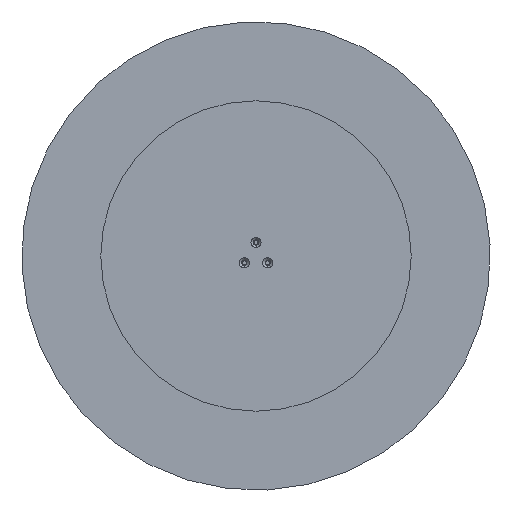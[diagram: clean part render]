
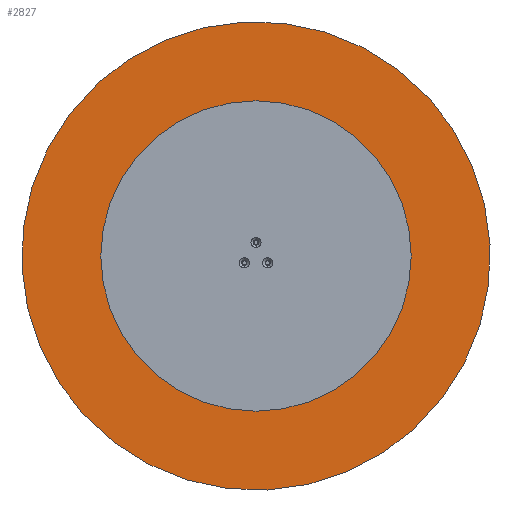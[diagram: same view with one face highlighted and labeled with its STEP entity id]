
A CAD part, front view. The second image highlights one B-rep face of the part: STEP entity #2827.
In plain terms, the highlighted planar face has unit normal (0, -1, 0).
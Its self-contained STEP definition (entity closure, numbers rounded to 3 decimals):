
#98 = EDGE_CURVE ( 'NONE', #2309, #3708, #2726, .T. ) ;
#174 = CARTESIAN_POINT ( 'NONE',  ( 0., 0., -400. ) ) ;
#199 = CARTESIAN_POINT ( 'NONE',  ( 0., 0., 400. ) ) ;
#793 = AXIS2_PLACEMENT_3D ( 'NONE', #2073, #1411, #2015 ) ;
#818 = PLANE ( 'NONE',  #793 ) ;
#919 = AXIS2_PLACEMENT_3D ( 'NONE', #3505, #1375, #3121 ) ;
#989 = AXIS2_PLACEMENT_3D ( 'NONE', #3453, #1909, #2531 ) ;
#1002 = ORIENTED_EDGE ( 'NONE', *, *, #1208, .T. ) ;
#1208 = EDGE_CURVE ( 'NONE', #3708, #2309, #3123, .T. ) ;
#1375 = DIRECTION ( 'NONE',  ( 0., -1., 0. ) ) ;
#1411 = DIRECTION ( 'NONE',  ( 0., -1., 0. ) ) ;
#1909 = DIRECTION ( 'NONE',  ( 0., -1., 0. ) ) ;
#2015 = DIRECTION ( 'NONE',  ( 0., 0., -1. ) ) ;
#2041 = ORIENTED_EDGE ( 'NONE', *, *, #98, .T. ) ;
#2073 = CARTESIAN_POINT ( 'NONE',  ( 0., 0., 0. ) ) ;
#2309 = VERTEX_POINT ( 'NONE', #199 ) ;
#2531 = DIRECTION ( 'NONE',  ( 0., 0., -1. ) ) ;
#2726 = CIRCLE ( 'NONE', #919, 400. ) ;
#2827 = ADVANCED_FACE ( 'NONE', ( #3521 ), #818, .T. ) ;
#3121 = DIRECTION ( 'NONE',  ( 0., 0., -1. ) ) ;
#3123 = CIRCLE ( 'NONE', #989, 400. ) ;
#3453 = CARTESIAN_POINT ( 'NONE',  ( 0., 0., 0. ) ) ;
#3505 = CARTESIAN_POINT ( 'NONE',  ( 0., 0., 0. ) ) ;
#3521 = FACE_OUTER_BOUND ( 'NONE', #3792, .T. ) ;
#3708 = VERTEX_POINT ( 'NONE', #174 ) ;
#3792 = EDGE_LOOP ( 'NONE', ( #1002, #2041 ) ) ;
